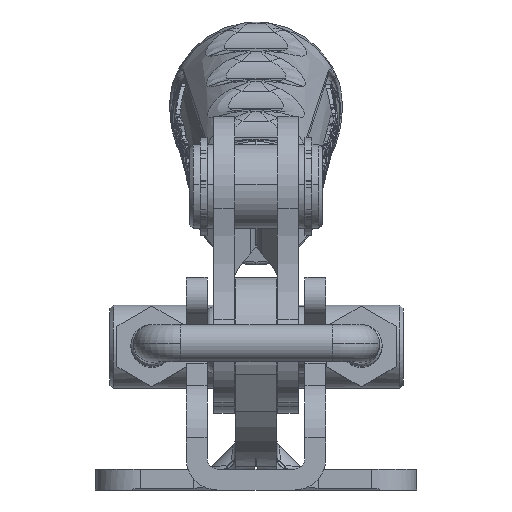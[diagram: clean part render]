
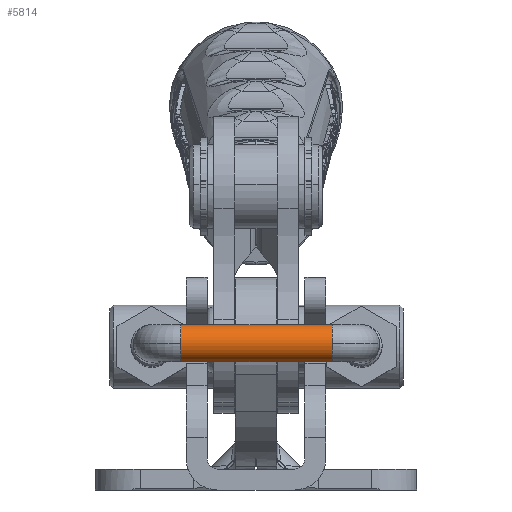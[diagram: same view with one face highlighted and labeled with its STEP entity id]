
A CAD part, left-side view. The second image highlights one B-rep face of the part: STEP entity #5814.
In plain terms, the highlighted cylindrical face has radius 2.65 mm (diameter 5.3 mm), a partial arc.
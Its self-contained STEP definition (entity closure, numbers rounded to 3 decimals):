
#5814=ADVANCED_FACE('',(#11953),#11954,.T.);
#11953=FACE_OUTER_BOUND('',#29612,.T.);
#11954=CYLINDRICAL_SURFACE('',#29613,2.65);
#29612=EDGE_LOOP('',(#45640,#45641,#45642,#45643,#45644,#45645,#45646,#45647));
#29613=AXIS2_PLACEMENT_3D('',#45648,#45649,#45650);
#45640=ORIENTED_EDGE('',*,*,#54535,.T.);
#45641=ORIENTED_EDGE('',*,*,#54502,.F.);
#45642=ORIENTED_EDGE('',*,*,#54501,.F.);
#45643=ORIENTED_EDGE('',*,*,#54555,.F.);
#45644=ORIENTED_EDGE('',*,*,#54537,.T.);
#45645=ORIENTED_EDGE('',*,*,#54557,.T.);
#45646=ORIENTED_EDGE('',*,*,#54498,.T.);
#45647=ORIENTED_EDGE('',*,*,#54497,.T.);
#45648=CARTESIAN_POINT('',(-94.371,-10.925,21.));
#45649=DIRECTION('',(0.0,-1.0,0.0));
#45650=DIRECTION('',(0.012,0.0,1.));
#54497=EDGE_CURVE('',#64629,#64627,#64630,.T.);
#54498=EDGE_CURVE('',#64619,#64629,#64631,.T.);
#54501=EDGE_CURVE('',#64633,#64636,#64637,.T.);
#54502=EDGE_CURVE('',#64636,#64638,#64639,.T.);
#54535=EDGE_CURVE('',#64627,#64638,#64692,.T.);
#54537=EDGE_CURVE('',#64695,#64693,#64696,.T.);
#54555=EDGE_CURVE('',#64695,#64633,#64715,.T.);
#54557=EDGE_CURVE('',#64693,#64619,#64717,.T.);
#64619=VERTEX_POINT('',#92519);
#64627=VERTEX_POINT('',#92527);
#64629=VERTEX_POINT('',#92529);
#64630=CIRCLE('',#92530,2.65);
#64631=CIRCLE('',#92531,2.65);
#64633=VERTEX_POINT('',#92533);
#64636=VERTEX_POINT('',#92536);
#64637=CIRCLE('',#92537,2.65);
#64638=VERTEX_POINT('',#92538);
#64639=CIRCLE('',#92539,2.65);
#64692=LINE('',#92604,#92605);
#64693=VERTEX_POINT('',#92606);
#64695=VERTEX_POINT('',#92608);
#64696=LINE('',#92609,#92610);
#64715=CIRCLE('',#92633,2.65);
#64717=CIRCLE('',#92635,2.65);
#92519=CARTESIAN_POINT('',(-97.021,-10.925,21.016));
#92527=CARTESIAN_POINT('',(-94.34,-10.925,23.65));
#92529=CARTESIAN_POINT('',(-94.356,-10.925,23.65));
#92530=AXIS2_PLACEMENT_3D('',#101568,#101569,#101570);
#92531=AXIS2_PLACEMENT_3D('',#101571,#101572,#101573);
#92533=CARTESIAN_POINT('',(-97.021,10.775,21.016));
#92536=CARTESIAN_POINT('',(-94.356,10.775,23.65));
#92537=AXIS2_PLACEMENT_3D('',#101577,#101578,#101579);
#92538=CARTESIAN_POINT('',(-94.34,10.775,23.65));
#92539=AXIS2_PLACEMENT_3D('',#101580,#101581,#101582);
#92604=CARTESIAN_POINT('',(-94.34,-10.925,23.65));
#92605=VECTOR('',#101634,1.0);
#92606=CARTESIAN_POINT('',(-94.402,-10.925,18.35));
#92608=CARTESIAN_POINT('',(-94.402,10.775,18.35));
#92609=CARTESIAN_POINT('',(-94.402,-10.925,18.35));
#92610=VECTOR('',#101638,1.0);
#92633=AXIS2_PLACEMENT_3D('',#101664,#101665,#101666);
#92635=AXIS2_PLACEMENT_3D('',#101667,#101668,#101669);
#101568=CARTESIAN_POINT('',(-94.371,-10.925,21.));
#101569=DIRECTION('',(0.,1.0,0.));
#101570=DIRECTION('',(0.006,0.,1.));
#101571=CARTESIAN_POINT('',(-94.371,-10.925,21.));
#101572=DIRECTION('',(0.,1.0,0.));
#101573=DIRECTION('',(0.006,0.,1.));
#101577=CARTESIAN_POINT('',(-94.371,10.775,21.));
#101578=DIRECTION('',(0.,1.0,0.));
#101579=DIRECTION('',(0.006,0.,1.));
#101580=CARTESIAN_POINT('',(-94.371,10.775,21.));
#101581=DIRECTION('',(0.,1.0,0.));
#101582=DIRECTION('',(0.006,0.,1.));
#101634=DIRECTION('',(-0.0,1.0,-0.0));
#101638=DIRECTION('',(0.0,-1.0,0.0));
#101664=CARTESIAN_POINT('',(-94.371,10.775,21.));
#101665=DIRECTION('',(0.,1.0,0.));
#101666=DIRECTION('',(0.006,0.,1.));
#101667=CARTESIAN_POINT('',(-94.371,-10.925,21.));
#101668=DIRECTION('',(0.,1.0,0.));
#101669=DIRECTION('',(0.006,0.,1.));
